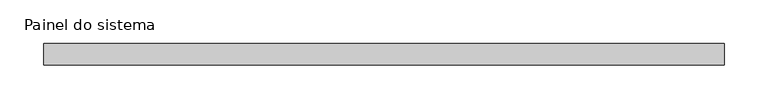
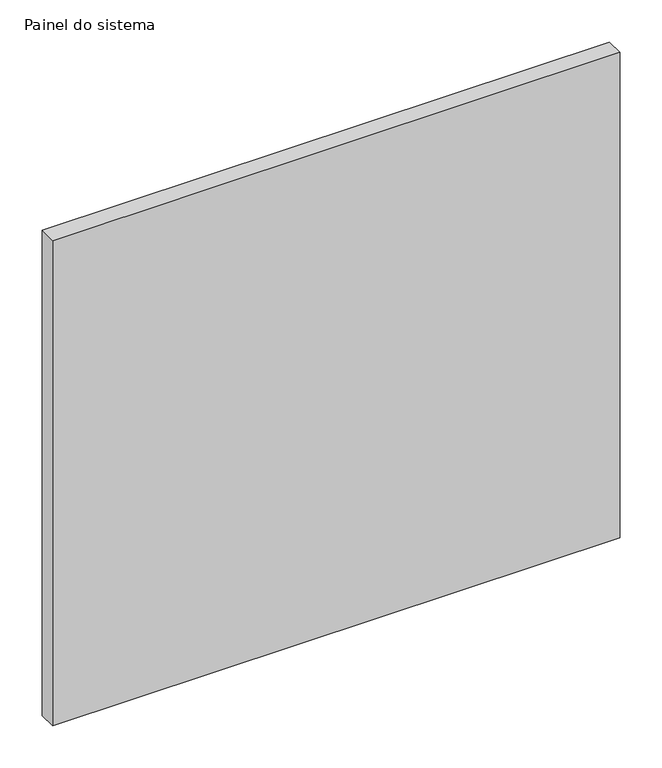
"""IFC4 building model written with IfcOpenShell, lengths in millimetres: plate geometry, Painel do sistema : Envidraçado."""

from ifc_helpers import new_model, si_unit, origin, origin_with_axes, place, context, project, spatial, polyline, outline, extrude, source, transform, mapped, element, save


def painel_do_sistema_35804296(model_context):
    return source(origin(), model_context, "Body", "SweptSolid", [
        extrude(outline(polyline([(390.0, -49.5), (-390.0, -49.5), (-390.0, -24.5), (390.0, -24.5), (390.0, -49.5)])), origin_with_axes(), (0.0, 0.0, 1.0), 705.0),
    ])


if __name__ == "__main__":
    model = new_model("IFC4")
    model_context = context("Model", 3, world=origin())
    ifc_project = project(units=[si_unit("LENGTHUNIT", "METRE", prefix="MILLI")], contexts=[model_context])
    site = spatial("IfcSite", under=ifc_project)
    building = spatial("IfcBuilding", under=site)
    placement = place(None, origin())
    painel_do_sistema_shape = painel_do_sistema_35804296(model_context)
    element("IfcPlate", 1, ObjectType="Painel do sistema : Envidraçado", at=placement, inside=building, context=model_context, shape_type="MappedRepresentation", body=[
        mapped(painel_do_sistema_shape, transform((0.0, 0.0, 0.0), x_axis=(1.0, 0.0, 0.0), y_axis=(0.0, 1.0, 0.0), z_axis=(0.0, 0.0, 1.0))),
    ])
    save(model, "model.ifc")
